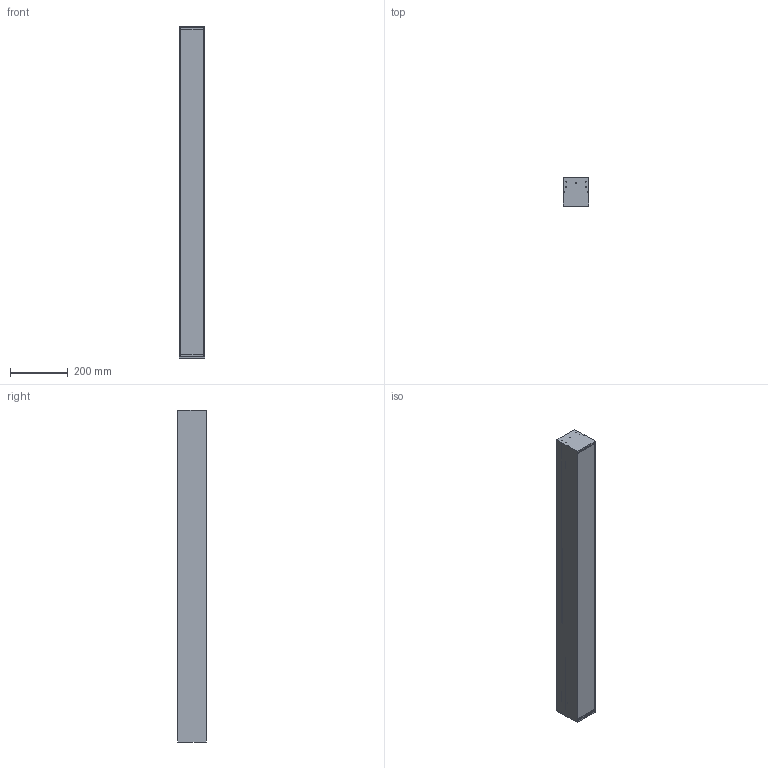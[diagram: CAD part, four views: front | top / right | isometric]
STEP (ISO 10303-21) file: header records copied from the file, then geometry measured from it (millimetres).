
FILE_DESCRIPTION(/* description */ (''),/* implementation_level */ '2;1');
FILE_NAME(/* name */ 'C:\Users\nathan\OneDrive - M LIGHT PTY LTD (1)\Engineering\CAD\PRODUCT ASSEMBLIES\SIGURI X (Ver 2)\Concept\Plastic Extrusion\CAD Simplified\Siguri X2 SM 4B Assembly.stp',/* time_stamp */ '2024-11-06T16:20:49+11:00',/* author */ ('nathan'),/* organization */ (''),/* preprocessor_version */ 'ST-DEVELOPER v18.1',/* originating_system */ 'Autodesk Inventor 2022',/* authorisation */ '');
FILE_SCHEMA (('AUTOMOTIVE_DESIGN { 1 0 10303 214 3 1 1 }'));
Length unit declared in the file: inch
Products named in the file (2): Siguri X2 SM 4B Assembly - Simplified; Siguri X2 SM 4B Assembly - Simplified_Simplify_1
Assembly tree (1 placements, depth 2):
  Siguri X2 SM 4B Assembly - Simplified
    Siguri X2 SM 4B Assembly - Simplified_Simplify_1
Bounding box: 88.2 x 100.4 x 1150 mm (x, y, z)
Volume: 6414887.9 mm3; surface area: 1216074.9 mm2
Topology: 1 solids, 1 shells, 1260 faces, 3474 edges, 2201 vertices
Faces by surface type: plane 585, cylinder 451, cone 104, torus 76, bspline 28, sphere 16
Full cylindrical faces by diameter (mm): 3.3 x10, 3.5 x4, 3.571 x4, 4 x4, 4.1 x8, 8.4 x4, 10 x1, 21 x1, 24 x1
Entity records: 42732 total; most frequent: CARTESIAN_POINT 8948, DIRECTION 6923, ORIENTED_EDGE 6912, EDGE_CURVE 3456, AXIS2_PLACEMENT_3D 2508, VERTEX_POINT 2201, LINE 1907, VECTOR 1907
